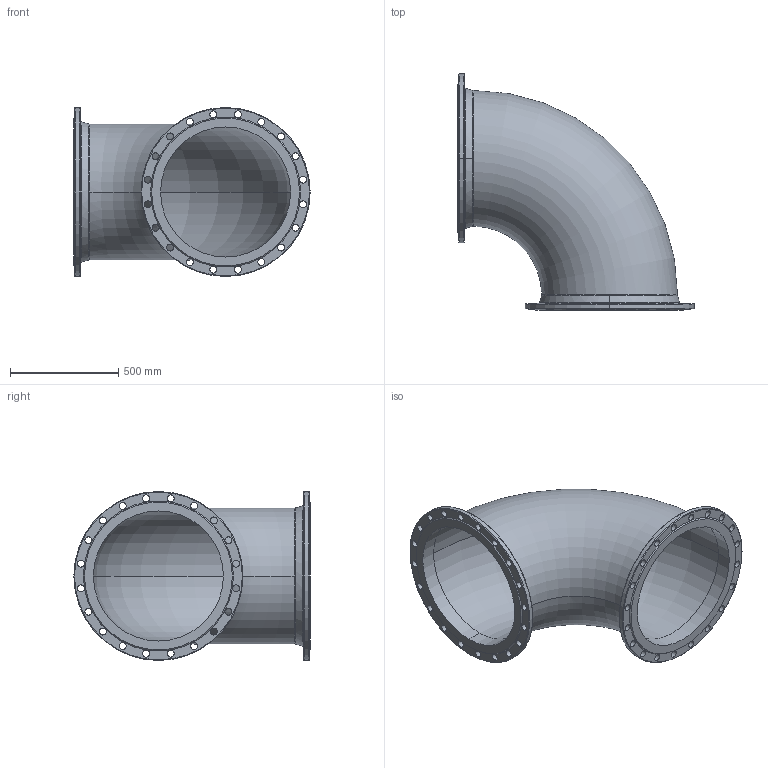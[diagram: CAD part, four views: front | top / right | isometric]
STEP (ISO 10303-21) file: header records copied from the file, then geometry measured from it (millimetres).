
FILE_DESCRIPTION (( 'STEP AP203' ), '1' );
FILE_NAME ('O_712_0610_DN600_0X_REV01.step', '2021-11-19T10:23:08', ( '' ), ( '' ), 'SwSTEP 2.0', 'SolidWorks 2019', '' );
FILE_SCHEMA (( 'CONFIG_CONTROL_DESIGN' ));
Length unit declared in the file: millimetre
Products named in the file (1): O_712_0610_DN600_0X_REV01
Bounding box: 1090 x 1090 x 780 mm (x, y, z)
Volume: 37885952.5 mm3; surface area: 5079655.7 mm2
Topology: 1 solids, 1 shells, 165 faces, 457 edges, 302 vertices
Faces by surface type: cylinder 92, plane 41, torus 20, cone 8, bspline 4
Entity records: 7794 total; most frequent: CARTESIAN_POINT 3307, DIRECTION 915, ORIENTED_EDGE 914, EDGE_CURVE 457, AXIS2_PLACEMENT_3D 390, VERTEX_POINT 302, EDGE_LOOP 255, CIRCLE 228
